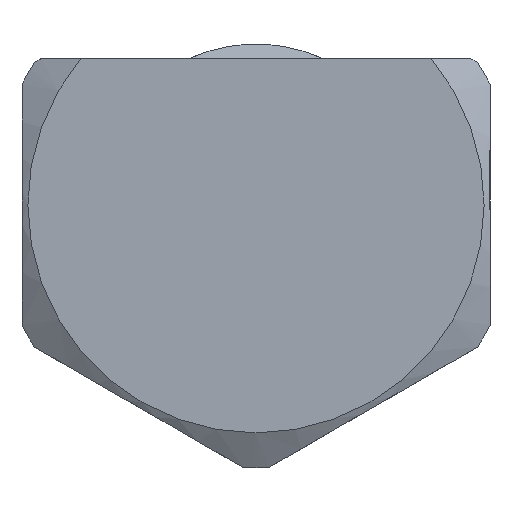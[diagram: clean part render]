
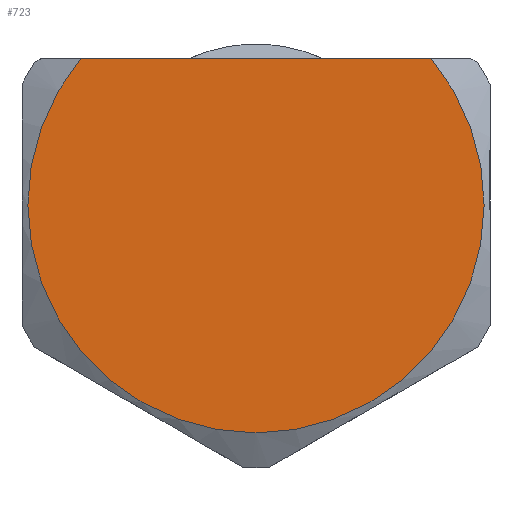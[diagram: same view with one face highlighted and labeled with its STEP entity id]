
A CAD part, front view. The second image highlights one B-rep face of the part: STEP entity #723.
In plain terms, the highlighted planar face has unit normal (0, -1, 0).
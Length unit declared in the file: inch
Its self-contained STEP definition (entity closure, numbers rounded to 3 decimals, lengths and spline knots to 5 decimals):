
#67=PLANE('',#824);
#104=FACE_OUTER_BOUND('',#144,.T.);
#144=EDGE_LOOP('',(#671,#672));
#162=LINE('',#1234,#199);
#199=VECTOR('',#923,0.3937);
#262=CIRCLE('',#822,0.975);
#305=VERTEX_POINT('',#1229);
#306=VERTEX_POINT('',#1233);
#394=EDGE_CURVE('',#306,#305,#162,.T.);
#452=EDGE_CURVE('',#306,#305,#262,.T.);
#671=ORIENTED_EDGE('',*,*,#394,.T.);
#672=ORIENTED_EDGE('',*,*,#452,.F.);
#723=ADVANCED_FACE('',(#104),#67,.T.);
#822=AXIS2_PLACEMENT_3D('',#1374,#1033,#1034);
#824=AXIS2_PLACEMENT_3D('',#1376,#1037,#1038);
#923=DIRECTION('',(-1.,0.,0.));
#1033=DIRECTION('center_axis',(0.,1.,0.));
#1034=DIRECTION('ref_axis',(0.,0.,1.));
#1037=DIRECTION('center_axis',(0.,-1.,0.));
#1038=DIRECTION('ref_axis',(0.,0.,-1.));
#1229=CARTESIAN_POINT('',(-0.74833,0.,0.625));
#1233=CARTESIAN_POINT('',(0.74833,0.,0.625));
#1234=CARTESIAN_POINT('',(0.45873,0.,0.625));
#1374=CARTESIAN_POINT('Origin',(0.,0.,0.));
#1376=CARTESIAN_POINT('Origin',(0.,0.,0.));
